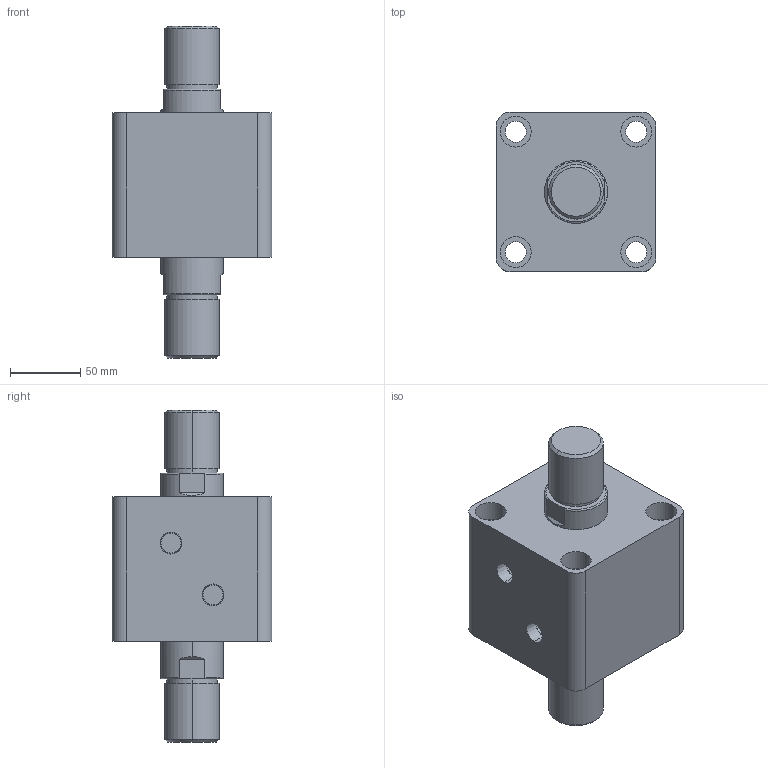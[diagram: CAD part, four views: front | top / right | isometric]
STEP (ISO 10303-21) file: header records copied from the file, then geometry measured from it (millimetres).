
FILE_DESCRIPTION (( 'STEP AP203' ), '1' );
FILE_NAME ('HTB-SW80-10W.STEP', '2019-10-07T10:19:32', ( '微软用户' ), ( '微软中国' ), 'SwSTEP 2.0', 'SolidWorks 2012', '' );
FILE_SCHEMA (( 'CONFIG_CONTROL_DESIGN' ));
Length unit declared in the file: millimetre
Products named in the file (3): HTB-SW80-10W; HTB-SW80-10W活塞杆; HTB-SW80-10掛极
Assembly tree (2 placements, depth 2):
  HTB-SW80-10W
    HTB-SW80-10掛极
    HTB-SW80-10W活塞杆
Bounding box: 114 x 114 x 237 mm (x, y, z)
Volume: 1368451.3 mm3; surface area: 160984.9 mm2
Topology: 2 solids, 2 shells, 108 faces, 240 edges, 156 vertices
Faces by surface type: cylinder 52, plane 36, torus 12, cone 8
Entity records: 3449 total; most frequent: CARTESIAN_POINT 629, DIRECTION 586, ORIENTED_EDGE 480, AXIS2_PLACEMENT_3D 249, EDGE_CURVE 240, VERTEX_POINT 156, EDGE_LOOP 138, CIRCLE 136
